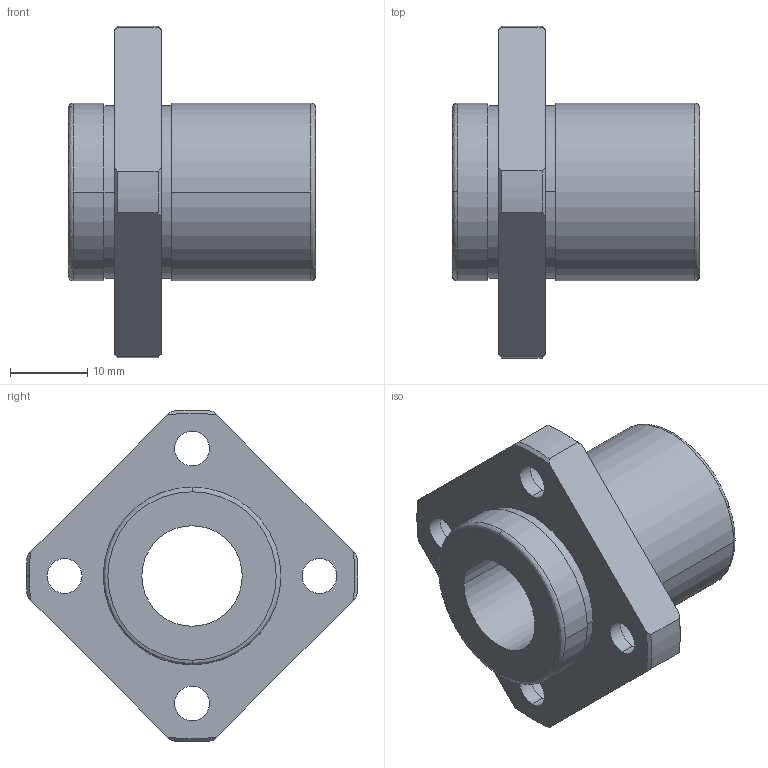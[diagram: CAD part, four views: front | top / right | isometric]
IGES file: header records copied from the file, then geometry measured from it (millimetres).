
Start section: 3D InterOp IGES (Version 21 0 1), Spatial Corp. Copyright (c) 1999-2007.
Global section: file name: NFIS-13VUU.igs; native system: Spatial Corp.; preprocessor: 3D InterOp GENERIC/IGES 3.0; author: Noname; organization: Noname; date: 20220308.112328; units: millimetre
Bounding box: 32 x 42.98 x 42.96 mm (x, y, z)
Surface area: 6351.4 mm2 (no closed solid volume)
Topology: 0 solids, 0 shells, 59 faces, 290 edges, 290 vertices
Faces by surface type: revolution 45, extrusion 14
